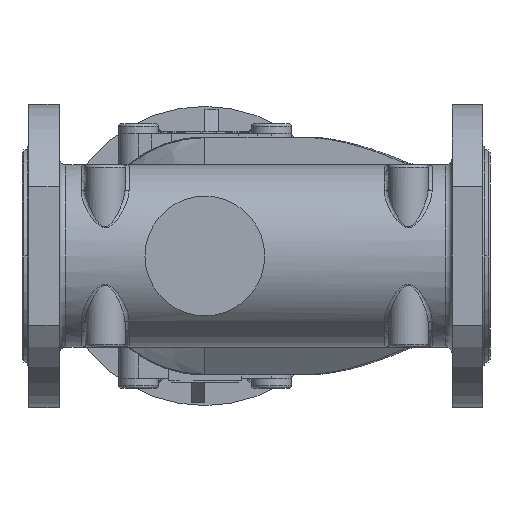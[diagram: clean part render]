
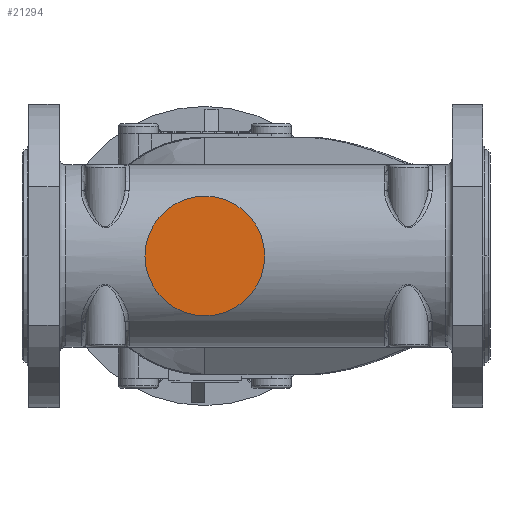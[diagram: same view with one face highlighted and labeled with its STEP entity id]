
A CAD part, front view. The second image highlights one B-rep face of the part: STEP entity #21294.
In plain terms, the highlighted planar face has unit normal (0, -1, 0).
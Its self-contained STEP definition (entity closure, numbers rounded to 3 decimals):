
#6179=CARTESIAN_POINT('',(0.,-100.,0.));
#6180=DIRECTION('',(0.,1.,0.));
#6181=DIRECTION('',(-1.,0.,0.));
#6182=AXIS2_PLACEMENT_3D('',#6179,#6180,#6181);
#6184=CARTESIAN_POINT('',(0.,-100.,0.));
#6185=DIRECTION('',(0.,-1.,0.));
#6186=DIRECTION('',(-1.,0.,0.));
#6187=AXIS2_PLACEMENT_3D('',#6184,#6185,#6186);
#10969=CARTESIAN_POINT('',(-45.,-100.,0.));
#10971=VERTEX_POINT('',#10969);
#10977=CARTESIAN_POINT('',(45.,-100.,0.));
#10979=VERTEX_POINT('',#10977);
#21285=CARTESIAN_POINT('',(0.,-100.,0.));
#21286=DIRECTION('',(0.,-1.,0.));
#21287=DIRECTION('',(-1.,0.,0.));
#21288=AXIS2_PLACEMENT_3D('',#21285,#21286,#21287);
#21289=PLANE('',#21288);
#21290=ORIENTED_EDGE('',*,*,#21280,.T.);
#21291=ORIENTED_EDGE('',*,*,#21264,.F.);
#21292=EDGE_LOOP('',(#21290,#21291));
#21293=FACE_OUTER_BOUND('',#21292,.F.);
#21294=ADVANCED_FACE('',(#21293),#21289,.T.);
#6183=CIRCLE('',#6182,45.);
#6188=CIRCLE('',#6187,45.);
#21264=EDGE_CURVE('',#10971,#10979,#6188,.T.);
#21280=EDGE_CURVE('',#10971,#10979,#6183,.T.);
